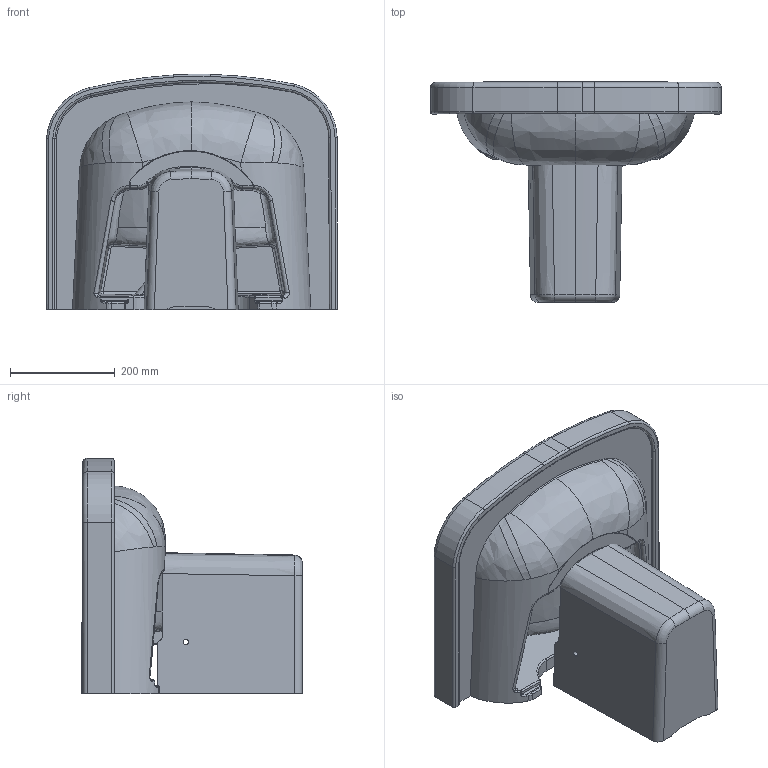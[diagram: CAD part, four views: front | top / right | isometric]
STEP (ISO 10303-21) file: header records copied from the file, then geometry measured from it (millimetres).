
FILE_DESCRIPTION (( 'STEP AP203' ), '1' );
FILE_NAME ('vt056 - VT260--2.STEP', '2022-04-18T06:24:09', ( '' ), ( '' ), 'SwSTEP 2.0', 'SolidWorks 2021', '' );
FILE_SCHEMA (( 'CONFIG_CONTROL_DESIGN' ));
Length unit declared in the file: millimetre
Products named in the file (1): vt056 - VT260--2
Bounding box: 557 x 422.35 x 451.12 mm (x, y, z)
Volume: 13475369.8 mm3; surface area: 1761841 mm2
Topology: 4 solids, 4 shells, 479 faces, 1265 edges, 771 vertices
Faces by surface type: bspline 214, cylinder 122, plane 91, torus 29, sphere 14, cone 9
Entity records: 92268 total; most frequent: CARTESIAN_POINT 82433, ORIENTED_EDGE 2486, DIRECTION 1439, EDGE_CURVE 1243, VERTEX_POINT 769, AXIS2_PLACEMENT_3D 557, B_SPLINE_CURVE_WITH_KNOTS 523, EDGE_LOOP 492
